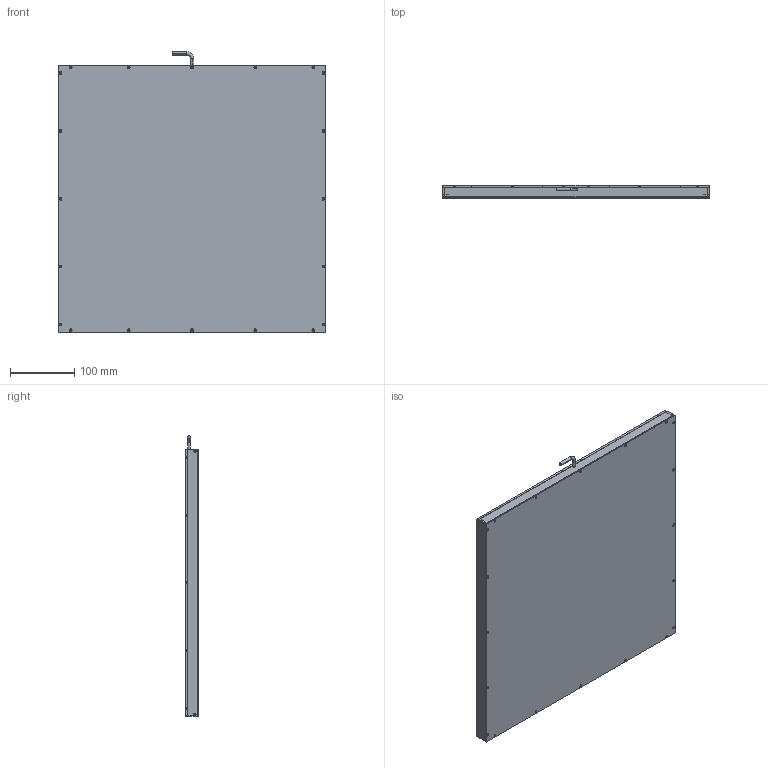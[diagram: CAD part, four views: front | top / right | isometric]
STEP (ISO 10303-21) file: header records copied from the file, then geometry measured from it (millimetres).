
FILE_DESCRIPTION (( 'STEP AP214' ), '1' );
FILE_NAME ('CST-PHFS400400-X-潠眢3D芞.STEP', '2023-04-26T02:54:55', ( 'Win10_64' ), ( 'Win10_64' ), 'SwSTEP 2.0', 'SolidWorks 2018', '' );
FILE_SCHEMA (( 'AUTOMOTIVE_DESIGN' ));
Length unit declared in the file: millimetre
Products named in the file (1): CST-PHFS400400-X-潠眢3D芞
Bounding box: 414 x 21 x 435.06 mm (x, y, z)
Volume: 2159701.4 mm3; surface area: 2101396.8 mm2
Topology: 11 solids, 11 shells, 510 faces, 1291 edges, 799 vertices
Faces by surface type: cylinder 255, plane 158, cone 95, torus 2
Entity records: 21146 total; most frequent: DIRECTION 2834, CARTESIAN_POINT 2555, ORIENTED_EDGE 2490, EDGE_CURVE 1245, AXIS2_PLACEMENT_3D 1078, VERTEX_POINT 799, EDGE_LOOP 712, VECTOR 678
